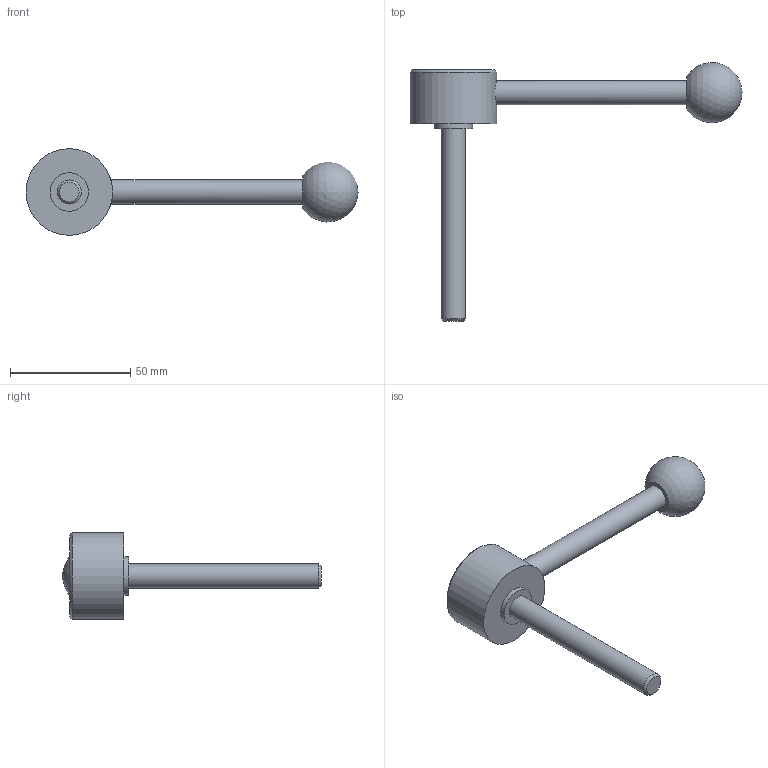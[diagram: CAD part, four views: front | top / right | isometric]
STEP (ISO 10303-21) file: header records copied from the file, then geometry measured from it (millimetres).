
FILE_DESCRIPTION( ( 'STEP AP203' ), '1' );
FILE_NAME( 'C:/Temp/Ganter_Step_05_03_2020/data/2_1/gn_125/gn_125_ms/gn_125_ms_d/Flat Adjustable Lever GN 125-36-M10-80-D.stp', '2020-03-05T11:00:48', ( 'License CC BY-ND 4.0' ), ( 'CADENAS' ), ' ', 'PARTsolutions', ' ' );
FILE_SCHEMA( ( 'CONFIG_CONTROL_DESIGN' ) );
Length unit declared in the file: millimetre
Products named in the file (1): _Flat Adjustable Lever GN 125-36-M10-80-D
Bounding box: 138 x 107.38 x 36 mm (x, y, z)
Volume: 43636.9 mm3; surface area: 11414.9 mm2
Topology: 1 solids, 1 shells, 14 faces, 23 edges, 15 vertices
Faces by surface type: plane 6, cylinder 5, cone 2, sphere 1
Full cylindrical faces by diameter (mm): 10 x2, 16 x1, 26 x1, 36 x1
Entity records: 392 total; most frequent: CARTESIAN_POINT 115, DIRECTION 54, AXIS2_PLACEMENT_3D 27, EDGE_LOOP 26, ORIENTED_EDGE 26, FACE_OUTER_BOUND 19, ADVANCED_FACE 14, VERTEX_POINT 14
